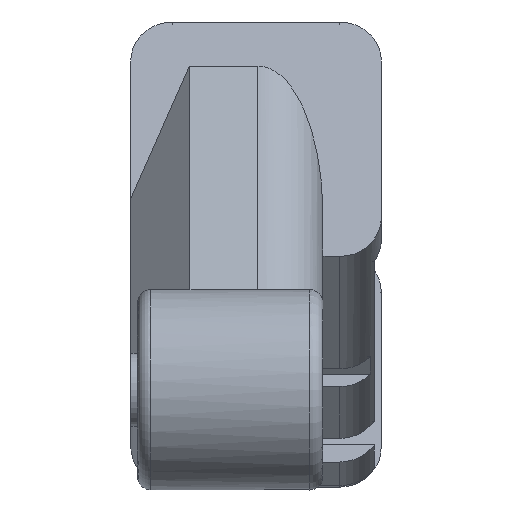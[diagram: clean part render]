
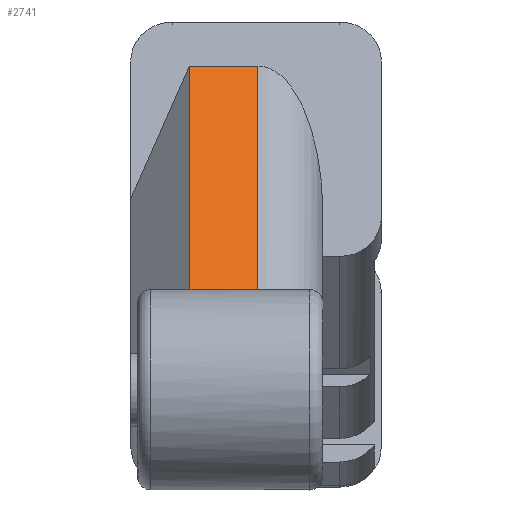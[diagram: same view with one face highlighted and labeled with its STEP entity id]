
A CAD part, left-side view. The second image highlights one B-rep face of the part: STEP entity #2741.
In plain terms, the highlighted planar face has unit normal (-0.706, 0, 0.709).
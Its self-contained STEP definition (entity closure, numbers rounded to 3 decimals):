
#173 = CYLINDRICAL_SURFACE('',#174,4.);
#174 = AXIS2_PLACEMENT_3D('',#175,#176,#177);
#175 = CARTESIAN_POINT('',(5.,0.,0.));
#176 = DIRECTION('',(1.,0.,0.));
#177 = DIRECTION('',(0.,0.,-1.));
#339 = VERTEX_POINT('',#340);
#340 = CARTESIAN_POINT('',(61.348,4.,4.));
#353 = PLANE('',#354);
#354 = AXIS2_PLACEMENT_3D('',#355,#356,#357);
#355 = CARTESIAN_POINT('',(78.566,5.75,18.682));
#356 = DIRECTION('',(0.499,-0.707,-0.501));
#357 = DIRECTION('',(-0.708,0.,-0.706)
  );
#380 = PLANE('',#381);
#381 = AXIS2_PLACEMENT_3D('',#382,#383,#384);
#382 = CARTESIAN_POINT('',(5.,0.,4.));
#383 = DIRECTION('',(0.,0.,1.));
#384 = DIRECTION('',(1.,0.,-0.));
#1244 = VERTEX_POINT('',#1245);
#1245 = CARTESIAN_POINT('',(61.346,-0.1,3.999));
#1297 = CYLINDRICAL_SURFACE('',#1298,3.9);
#1298 = AXIS2_PLACEMENT_3D('',#1299,#1300,#1301);
#1299 = CARTESIAN_POINT('',(80.084,-0.1,17.159));
#1300 = DIRECTION('',(-0.708,0.,-0.706));
#1301 = DIRECTION('',(-0.706,0.,0.708));
#1328 = EDGE_CURVE('',#1244,#1329,#1331,.T.);
#1329 = VERTEX_POINT('',#1330);
#1330 = CARTESIAN_POINT('',(61.348,0.,4.));
#1331 = SURFACE_CURVE('',#1332,(#1337,#1347),.PCURVE_S1.);
#1332 = ELLIPSE('',#1333,5.668,4.);
#1333 = AXIS2_PLACEMENT_3D('',#1334,#1335,#1336);
#1334 = CARTESIAN_POINT('',(57.332,0.,0.));
#1335 = DIRECTION('',(-0.706,0.,0.708));
#1336 = DIRECTION('',(0.708,0.,0.706));
#1337 = PCURVE('',#173,#1338);
#1338 = DEFINITIONAL_REPRESENTATION('',(#1339),#1346);
#1339 = B_SPLINE_CURVE_WITH_KNOTS('',5,(#1340,#1341,#1342,#1343,#1344,
    #1345),.UNSPECIFIED.,.F.,.F.,(6,6),(6.155,6.283),
  .PIECEWISE_BEZIER_KNOTS.);
#1340 = CARTESIAN_POINT('',(3.269,56.315));
#1341 = CARTESIAN_POINT('',(3.244,56.328));
#1342 = CARTESIAN_POINT('',(3.218,56.338));
#1343 = CARTESIAN_POINT('',(3.193,56.344));
#1344 = CARTESIAN_POINT('',(3.167,56.348));
#1345 = CARTESIAN_POINT('',(3.142,56.348));
#1346 = ( GEOMETRIC_REPRESENTATION_CONTEXT(2) 
PARAMETRIC_REPRESENTATION_CONTEXT() REPRESENTATION_CONTEXT('2D SPACE',''
  ) );
#1347 = PCURVE('',#1348,#1353);
#1348 = PLANE('',#1349);
#1349 = AXIS2_PLACEMENT_3D('',#1350,#1351,#1352);
#1350 = CARTESIAN_POINT('',(77.331,-4.,19.922));
#1351 = DIRECTION('',(-0.706,0.,0.708));
#1352 = DIRECTION('',(-0.708,0.,-0.706));
#1353 = DEFINITIONAL_REPRESENTATION('',(#1354),#1358);
#1354 = ELLIPSE('',#1355,5.668,4.);
#1355 = AXIS2_PLACEMENT_2D('',#1356,#1357);
#1356 = CARTESIAN_POINT('',(28.228,-4.));
#1357 = DIRECTION('',(-1.,0.));
#1358 = ( GEOMETRIC_REPRESENTATION_CONTEXT(2) 
PARAMETRIC_REPRESENTATION_CONTEXT() REPRESENTATION_CONTEXT('2D SPACE',''
  ) );
#2268 = EDGE_CURVE('',#339,#1329,#2269,.T.);
#2269 = SURFACE_CURVE('',#2270,(#2274,#2280),.PCURVE_S1.);
#2270 = LINE('',#2271,#2272);
#2271 = CARTESIAN_POINT('',(61.348,-2.,4.));
#2272 = VECTOR('',#2273,1.);
#2273 = DIRECTION('',(0.,-1.,0.));
#2274 = PCURVE('',#380,#2275);
#2275 = DEFINITIONAL_REPRESENTATION('',(#2276),#2279);
#2276 = B_SPLINE_CURVE_WITH_KNOTS('',1,(#2277,#2278),.UNSPECIFIED.,.F.,
  .F.,(2,2),(-6.,-2.),.PIECEWISE_BEZIER_KNOTS.);
#2277 = CARTESIAN_POINT('',(56.348,4.));
#2278 = CARTESIAN_POINT('',(56.348,0.));
#2279 = ( GEOMETRIC_REPRESENTATION_CONTEXT(2) 
PARAMETRIC_REPRESENTATION_CONTEXT() REPRESENTATION_CONTEXT('2D SPACE',''
  ) );
#2280 = PCURVE('',#1348,#2281);
#2281 = DEFINITIONAL_REPRESENTATION('',(#2282),#2285);
#2282 = B_SPLINE_CURVE_WITH_KNOTS('',1,(#2283,#2284),.UNSPECIFIED.,.F.,
  .F.,(2,2),(-6.,-2.),.PIECEWISE_BEZIER_KNOTS.);
#2283 = CARTESIAN_POINT('',(22.56,-8.));
#2284 = CARTESIAN_POINT('',(22.56,-4.));
#2285 = ( GEOMETRIC_REPRESENTATION_CONTEXT(2) 
PARAMETRIC_REPRESENTATION_CONTEXT() REPRESENTATION_CONTEXT('2D SPACE',''
  ) );
#2293 = VERTEX_POINT('',#2294);
#2294 = CARTESIAN_POINT('',(76.781,4.,19.373));
#2307 = PLANE('',#2308);
#2308 = AXIS2_PLACEMENT_3D('',#2309,#2310,#2311);
#2309 = CARTESIAN_POINT('',(75.124,0.,
    14.999));
#2310 = DIRECTION('',(0.935,0.,-0.354));
#2311 = DIRECTION('',(0.,1.,0.));
#2318 = EDGE_CURVE('',#2293,#339,#2319,.T.);
#2319 = SURFACE_CURVE('',#2320,(#2324,#2331),.PCURVE_S1.);
#2320 = LINE('',#2321,#2322);
#2321 = CARTESIAN_POINT('',(77.331,4.,19.922));
#2322 = VECTOR('',#2323,1.);
#2323 = DIRECTION('',(-0.708,0.,-0.706));
#2324 = PCURVE('',#353,#2325);
#2325 = DEFINITIONAL_REPRESENTATION('',(#2326),#2330);
#2326 = LINE('',#2327,#2328);
#2327 = CARTESIAN_POINT('',(0.,-2.475));
#2328 = VECTOR('',#2329,1.);
#2329 = DIRECTION('',(1.,0.));
#2330 = ( GEOMETRIC_REPRESENTATION_CONTEXT(2) 
PARAMETRIC_REPRESENTATION_CONTEXT() REPRESENTATION_CONTEXT('2D SPACE',''
  ) );
#2331 = PCURVE('',#1348,#2332);
#2332 = DEFINITIONAL_REPRESENTATION('',(#2333),#2337);
#2333 = LINE('',#2334,#2335);
#2334 = CARTESIAN_POINT('',(0.,-8.));
#2335 = VECTOR('',#2336,1.);
#2336 = DIRECTION('',(1.,0.));
#2337 = ( GEOMETRIC_REPRESENTATION_CONTEXT(2) 
PARAMETRIC_REPRESENTATION_CONTEXT() REPRESENTATION_CONTEXT('2D SPACE',''
  ) );
#2741 = ADVANCED_FACE('',(#2742),#1348,.T.);
#2742 = FACE_BOUND('',#2743,.T.);
#2743 = EDGE_LOOP('',(#2744,#2765,#2766,#2767,#2768));
#2744 = ORIENTED_EDGE('',*,*,#2745,.T.);
#2745 = EDGE_CURVE('',#2746,#2293,#2748,.T.);
#2746 = VERTEX_POINT('',#2747);
#2747 = CARTESIAN_POINT('',(76.781,-0.1,19.373));
#2748 = SURFACE_CURVE('',#2749,(#2753,#2759),.PCURVE_S1.);
#2749 = LINE('',#2750,#2751);
#2750 = CARTESIAN_POINT('',(76.781,-2.,19.373));
#2751 = VECTOR('',#2752,1.);
#2752 = DIRECTION('',(-0.,1.,-0.));
#2753 = PCURVE('',#1348,#2754);
#2754 = DEFINITIONAL_REPRESENTATION('',(#2755),#2758);
#2755 = B_SPLINE_CURVE_WITH_KNOTS('',1,(#2756,#2757),.UNSPECIFIED.,.F.,
  .F.,(2,2),(1.9,6.),.PIECEWISE_BEZIER_KNOTS.);
#2756 = CARTESIAN_POINT('',(0.777,-3.9));
#2757 = CARTESIAN_POINT('',(0.777,-8.));
#2758 = ( GEOMETRIC_REPRESENTATION_CONTEXT(2) 
PARAMETRIC_REPRESENTATION_CONTEXT() REPRESENTATION_CONTEXT('2D SPACE',''
  ) );
#2759 = PCURVE('',#2307,#2760);
#2760 = DEFINITIONAL_REPRESENTATION('',(#2761),#2764);
#2761 = B_SPLINE_CURVE_WITH_KNOTS('',1,(#2762,#2763),.UNSPECIFIED.,.F.,
  .F.,(2,2),(1.9,6.),.PIECEWISE_BEZIER_KNOTS.);
#2762 = CARTESIAN_POINT('',(-0.1,4.677));
#2763 = CARTESIAN_POINT('',(4.,4.677));
#2764 = ( GEOMETRIC_REPRESENTATION_CONTEXT(2) 
PARAMETRIC_REPRESENTATION_CONTEXT() REPRESENTATION_CONTEXT('2D SPACE',''
  ) );
#2765 = ORIENTED_EDGE('',*,*,#2318,.T.);
#2766 = ORIENTED_EDGE('',*,*,#2268,.T.);
#2767 = ORIENTED_EDGE('',*,*,#1328,.F.);
#2768 = ORIENTED_EDGE('',*,*,#2769,.F.);
#2769 = EDGE_CURVE('',#2746,#1244,#2770,.T.);
#2770 = SURFACE_CURVE('',#2771,(#2775,#2782),.PCURVE_S1.);
#2771 = LINE('',#2772,#2773);
#2772 = CARTESIAN_POINT('',(77.331,-0.1,19.922));
#2773 = VECTOR('',#2774,1.);
#2774 = DIRECTION('',(-0.708,0.,-0.706));
#2775 = PCURVE('',#1348,#2776);
#2776 = DEFINITIONAL_REPRESENTATION('',(#2777),#2781);
#2777 = LINE('',#2778,#2779);
#2778 = CARTESIAN_POINT('',(0.,-3.9));
#2779 = VECTOR('',#2780,1.);
#2780 = DIRECTION('',(1.,0.));
#2781 = ( GEOMETRIC_REPRESENTATION_CONTEXT(2) 
PARAMETRIC_REPRESENTATION_CONTEXT() REPRESENTATION_CONTEXT('2D SPACE',''
  ) );
#2782 = PCURVE('',#1297,#2783);
#2783 = DEFINITIONAL_REPRESENTATION('',(#2784),#2788);
#2784 = LINE('',#2785,#2786);
#2785 = CARTESIAN_POINT('',(-0.,0.));
#2786 = VECTOR('',#2787,1.);
#2787 = DIRECTION('',(-0.,1.));
#2788 = ( GEOMETRIC_REPRESENTATION_CONTEXT(2) 
PARAMETRIC_REPRESENTATION_CONTEXT() REPRESENTATION_CONTEXT('2D SPACE',''
  ) );
